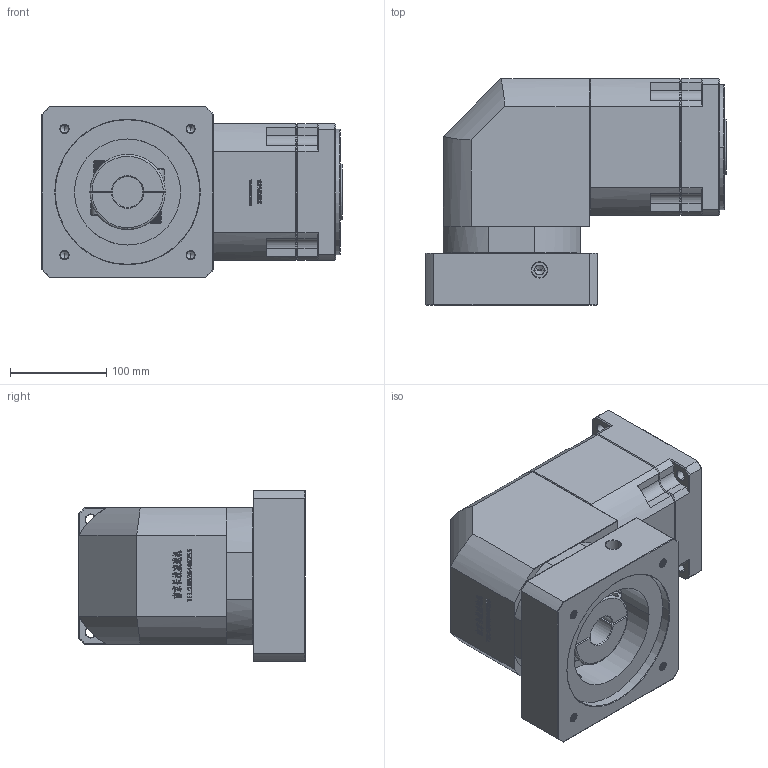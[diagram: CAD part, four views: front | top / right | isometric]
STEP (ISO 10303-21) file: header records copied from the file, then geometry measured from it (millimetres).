
FILE_DESCRIPTION (( 'STEP AP214' ), '1' );
FILE_NAME ('ZBR142A-K35-L2-32-150-185-M10.step', '2023-03-18T09:26:58', ( '' ), ( '' ), 'SwSTEP 2.0', 'SolidWorks 2016', '' );
FILE_SCHEMA (( 'AUTOMOTIVE_DESIGN' ));
Length unit declared in the file: millimetre
Products named in the file (1): ZBR142A-K35-L2-32-150-185-M10
Bounding box: 311.7 x 235 x 178 mm (x, y, z)
Volume: 6627430.2 mm3; surface area: 444402.6 mm2
Topology: 6 solids, 6 shells, 2855 faces, 7603 edges, 4896 vertices
Faces by surface type: plane 1533, bspline 589, cylinder 387, cone 326, torus 20
Entity records: 157614 total; most frequent: CARTESIAN_POINT 59650, ORIENTED_EDGE 15150, DIRECTION 11468, EDGE_CURVE 7575, LINE 5160, VECTOR 5160, VERTEX_POINT 4896, AXIS2_PLACEMENT_3D 3154
